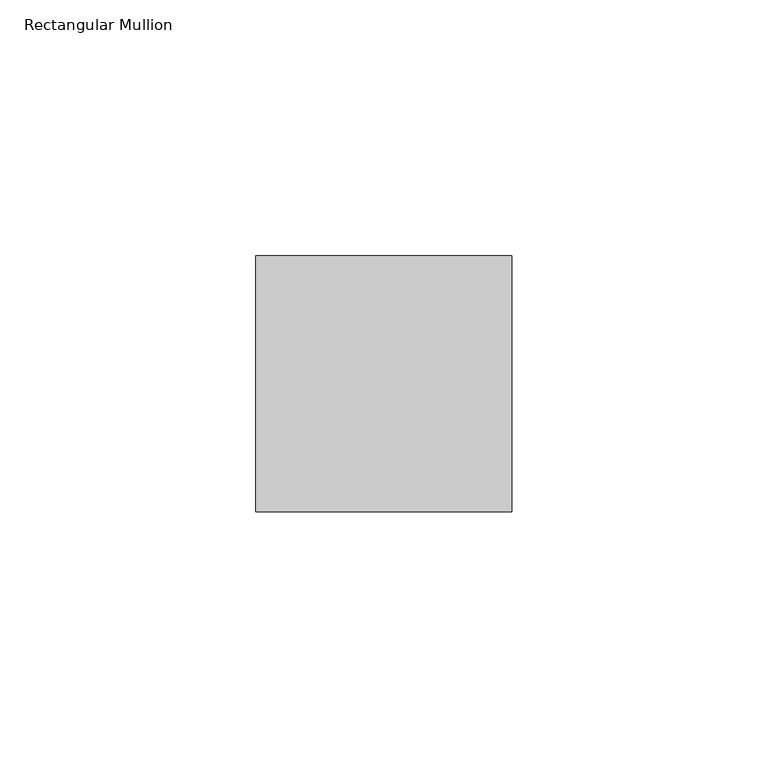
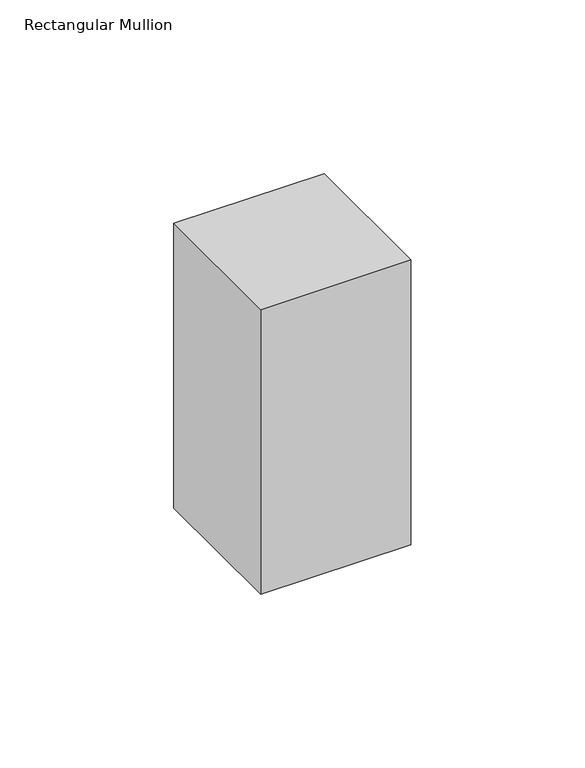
"""IFC4 building model written with IfcOpenShell, lengths in millimetres: member geometry, Rectangular Mullion : RSen_21_CWM_support profile 50x50_gen_duco projects."""

from ifc_helpers import new_model, si_unit, frame, origin, place, context, project, spatial, polyline, outline, extrude, source, transform, mapped, element, save


def rectangular_mullion_ae434dd9(model_context):
    return source(origin(), model_context, "Body", "SweptSolid", [
        extrude(outline(polyline([(25.0, 1.0), (25.0, -49.0), (-25.0, -49.0), (-25.0, 1.0), (25.0, 1.0)])), frame((0.0, 0.0, -100.0), z_axis=(0.0, 0.0, 1.0), x_axis=(1.0, 0.0, 0.0)), (0.0, 0.0, 1.0), 100.0),
    ])


if __name__ == "__main__":
    model = new_model("IFC4")
    model_context = context("Model", 3, world=origin())
    ifc_project = project(units=[si_unit("LENGTHUNIT", "METRE", prefix="MILLI")], contexts=[model_context])
    site = spatial("IfcSite", under=ifc_project)
    building = spatial("IfcBuilding", under=site)
    placement = place(None, origin())
    rectangular_mullion_shape = rectangular_mullion_ae434dd9(model_context)
    element("IfcMember", 1, ObjectType="Rectangular Mullion : RSen_21_CWM_support profile 50x50_gen_duco projects", at=placement, inside=building, context=model_context, shape_type="MappedRepresentation", body=[
        mapped(rectangular_mullion_shape, transform((0.0, 0.0, 0.0), x_axis=(1.0, 0.0, 0.0), y_axis=(0.0, 1.0, 0.0), z_axis=(0.0, 0.0, 1.0))),
    ])
    save(model, "model.ifc")
